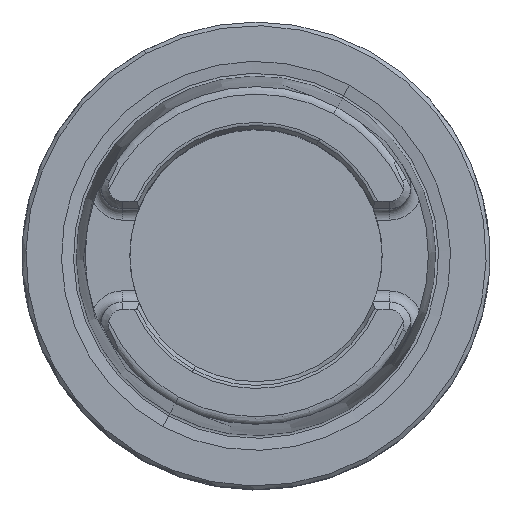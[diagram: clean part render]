
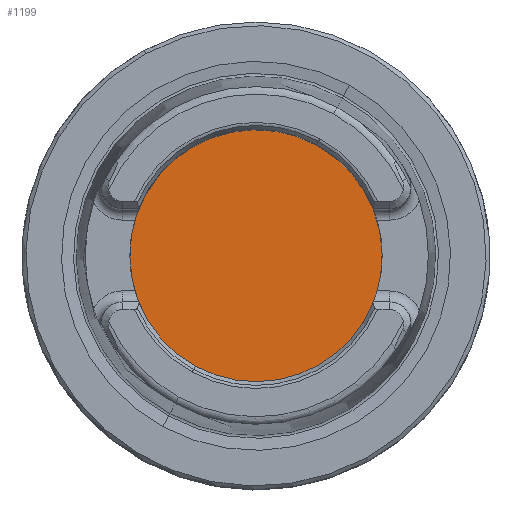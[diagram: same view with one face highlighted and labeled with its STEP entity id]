
A CAD part, top view. The second image highlights one B-rep face of the part: STEP entity #1199.
In plain terms, the highlighted planar face has unit normal (0, 0, 1).
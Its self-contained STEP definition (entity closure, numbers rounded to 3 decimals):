
#231=AXIS2_PLACEMENT_3D('Circle Axis2P3D',#229,#230,$) ;
#1095=AXIS2_PLACEMENT_3D('Circle Axis2P3D',#1093,#1094,$) ;
#1193=AXIS2_PLACEMENT_3D('Plane Axis2P3D',#1190,#1191,#1192) ;
#226=CARTESIAN_POINT('Vertex',(8.15,14.919,-10.)) ;
#229=CARTESIAN_POINT('Axis2P3D Location',(0.,0.,-10.)) ;
#233=CARTESIAN_POINT('Vertex',(-8.15,-14.919,-10.)) ;
#1093=CARTESIAN_POINT('Axis2P3D Location',(0.,0.,-10.)) ;
#1190=CARTESIAN_POINT('Axis2P3D Location',(0.,-15.75,-10.)) ;
#230=DIRECTION('Axis2P3D Direction',(0.,0.,-1.)) ;
#1094=DIRECTION('Axis2P3D Direction',(0.,0.,-1.)) ;
#1191=DIRECTION('Axis2P3D Direction',(0.,0.,-1.)) ;
#1192=DIRECTION('Axis2P3D XDirection',(-1.,0.,0.)) ;
#1196=ORIENTED_EDGE('',*,*,#235,.F.) ;
#1197=ORIENTED_EDGE('',*,*,#1097,.F.) ;
#1199=ADVANCED_FACE('NO_CUT',(#1198),#1194,.F.) ;
#232=CIRCLE('generated circle',#231,17.) ;
#1096=CIRCLE('generated circle',#1095,17.) ;
#235=EDGE_CURVE('',#227,#234,#232,.T.) ;
#1097=EDGE_CURVE('',#234,#227,#1096,.T.) ;
#1195=EDGE_LOOP('',(#1196,#1197)) ;
#1198=FACE_OUTER_BOUND('',#1195,.T.) ;
#1194=PLANE('',#1193) ;
#227=VERTEX_POINT('',#226) ;
#234=VERTEX_POINT('',#233) ;
